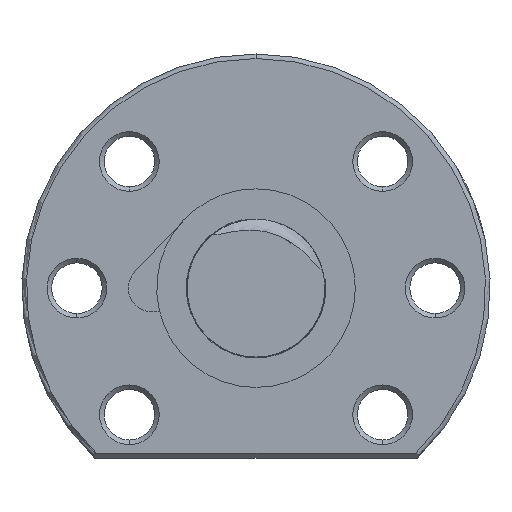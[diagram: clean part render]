
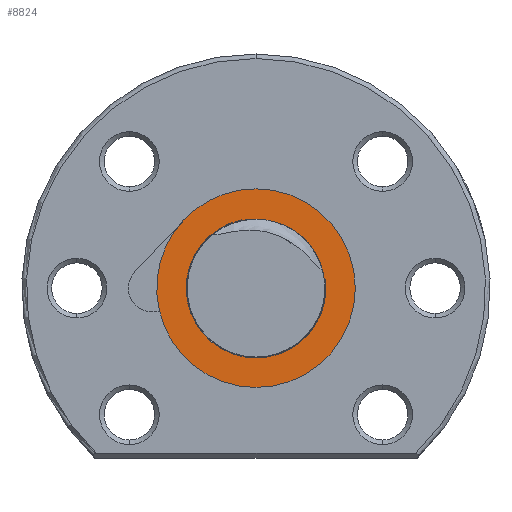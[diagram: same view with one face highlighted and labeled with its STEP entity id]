
A CAD part, left-side view. The second image highlights one B-rep face of the part: STEP entity #8824.
In plain terms, the highlighted planar face has unit normal (-1, 0, 0).
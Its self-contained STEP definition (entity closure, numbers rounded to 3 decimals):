
#2312 = DIRECTION ( 'NONE',  ( 0., 0., 1. ) ) ;
#2313 = DIRECTION ( 'NONE',  ( -1., 0., 0. ) ) ;
#2314 = CARTESIAN_POINT ( 'NONE',  ( -46.8, 0., 0. ) ) ;
#2315 = AXIS2_PLACEMENT_3D ( 'NONE', #2314, #2313, #2312 ) ;
#2335 = CIRCLE ( 'NONE', #2315, 7.6 ) ;
#2336 = CARTESIAN_POINT ( 'NONE',  ( -46.8, 0., -7.6 ) ) ;
#2345 = CARTESIAN_POINT ( 'NONE',  ( -46.8, -7.545, 0.914 ) ) ;
#2745 = DIRECTION ( 'NONE',  ( 0., 0., 1. ) ) ;
#2746 = DIRECTION ( 'NONE',  ( -1., 0., 0. ) ) ;
#2747 = CARTESIAN_POINT ( 'NONE',  ( -46.8, 0., 0. ) ) ;
#2748 = AXIS2_PLACEMENT_3D ( 'NONE', #2747, #2746, #2745 ) ;
#2749 = CIRCLE ( 'NONE', #2748, 10.813 ) ;
#2994 = CARTESIAN_POINT ( 'NONE',  ( -46.8, 10.528, -2.466 ) ) ;
#2995 = DIRECTION ( 'NONE',  ( 0., 0., 1. ) ) ;
#2996 = DIRECTION ( 'NONE',  ( -1., 0., 0. ) ) ;
#2997 = CARTESIAN_POINT ( 'NONE',  ( -46.8, 0., 0. ) ) ;
#2998 = AXIS2_PLACEMENT_3D ( 'NONE', #2997, #2996, #2995 ) ;
#3003 = CIRCLE ( 'NONE', #2998, 10.813 ) ;
#3128 = CARTESIAN_POINT ( 'NONE',  ( -46.8, 4.105, 6.396 ) ) ;
#3129 = CARTESIAN_POINT ( 'NONE',  ( -46.8, 4.04, 6.364 ) ) ;
#3130 = CARTESIAN_POINT ( 'NONE',  ( -46.8, 3.969, 6.344 ) ) ;
#3131 = CARTESIAN_POINT ( 'NONE',  ( -46.8, 3.825, 6.318 ) ) ;
#3132 = CARTESIAN_POINT ( 'NONE',  ( -46.8, 3.752, 6.311 ) ) ;
#3133 = CARTESIAN_POINT ( 'NONE',  ( -46.8, 3.535, 6.3 ) ) ;
#3134 = CARTESIAN_POINT ( 'NONE',  ( -46.8, 3.39, 6.304 ) ) ;
#3135 = CARTESIAN_POINT ( 'NONE',  ( -46.8, 2.958, 6.327 ) ) ;
#3136 = CARTESIAN_POINT ( 'NONE',  ( -46.8, 2.67, 6.355 ) ) ;
#3137 = CARTESIAN_POINT ( 'NONE',  ( -46.8, 1.806, 6.423 ) ) ;
#3138 = CARTESIAN_POINT ( 'NONE',  ( -46.8, 1.229, 6.448 ) ) ;
#3139 = CARTESIAN_POINT ( 'NONE',  ( -46.8, 0.367, 6.406 ) ) ;
#3140 = CARTESIAN_POINT ( 'NONE',  ( -46.8, 0.08, 6.38 ) ) ;
#3141 = CARTESIAN_POINT ( 'NONE',  ( -46.8, -0.491, 6.301 ) ) ;
#3142 = CARTESIAN_POINT ( 'NONE',  ( -46.8, -0.775, 6.247 ) ) ;
#3143 = CARTESIAN_POINT ( 'NONE',  ( -46.8, -1.607, 6.046 ) ) ;
#3144 = CARTESIAN_POINT ( 'NONE',  ( -46.8, -2.143, 5.859 ) ) ;
#3145 = CARTESIAN_POINT ( 'NONE',  ( -46.8, -3.173, 5.372 ) ) ;
#3146 = CARTESIAN_POINT ( 'NONE',  ( -46.8, -3.672, 5.068 ) ) ;
#3147 = CARTESIAN_POINT ( 'NONE',  ( -46.8, -4.58, 4.38 ) ) ;
#3148 = CARTESIAN_POINT ( 'NONE',  ( -46.8, -4.995, 3.994 ) ) ;
#3149 = CARTESIAN_POINT ( 'NONE',  ( -46.8, -5.76, 3.152 ) ) ;
#3150 = CARTESIAN_POINT ( 'NONE',  ( -46.8, -6.108, 2.692 ) ) ;
#3151 = CARTESIAN_POINT ( 'NONE',  ( -46.8, -6.604, 1.986 ) ) ;
#3152 = CARTESIAN_POINT ( 'NONE',  ( -46.8, -6.765, 1.748 ) ) ;
#3153 = CARTESIAN_POINT ( 'NONE',  ( -46.8, -7.023, 1.401 ) ) ;
#3154 = CARTESIAN_POINT ( 'NONE',  ( -46.8, -7.111, 1.287 ) ) ;
#3155 = CARTESIAN_POINT ( 'NONE',  ( -46.8, -7.258, 1.128 ) ) ;
#3156 = CARTESIAN_POINT ( 'NONE',  ( -46.8, -7.308, 1.078 ) ) ;
#3157 = CARTESIAN_POINT ( 'NONE',  ( -46.8, -7.419, 0.986 ) ) ;
#3158 = CARTESIAN_POINT ( 'NONE',  ( -46.8, -7.479, 0.943 ) ) ;
#3159 = CARTESIAN_POINT ( 'NONE',  ( -46.8, -7.545, 0.914 ) ) ;
#3160 = B_SPLINE_CURVE_WITH_KNOTS ( 'NONE', 3,
 ( #3159, #3158, #3157, #3156, #3155, #3154, #3153, #3152, #3151, #3150, #3149, #3148, #3147, #3146, #3145, #3144, #3143, #3142, #3141, #3140, #3139, #3138, #3137, #3136, #3135, #3134, #3133, #3132, #3131, #3130, #3129, #3128 ),
 .UNSPECIFIED., .F., .F.,
 ( 4, 2, 2, 2, 2, 2, 2, 2, 2, 2, 2, 2, 2, 2, 2, 4 ),
 ( 0.02, 0.02, 0.02, 0.021, 0.021, 0.023, 0.025, 0.027, 0.028, 0.029, 0.03, 0.032, 0.033, 0.033, 0.033, 0.034 ),
 .UNSPECIFIED. ) ;
#3163 = DIRECTION ( 'NONE',  ( 0., 0., 1. ) ) ;
#3164 = DIRECTION ( 'NONE',  ( -1., 0., 0. ) ) ;
#3165 = CARTESIAN_POINT ( 'NONE',  ( -46.8, 0., 7.6 ) ) ;
#3166 = AXIS2_PLACEMENT_3D ( 'NONE', #3165, #3164, #3163 ) ;
#3167 = PLANE ( 'NONE',  #3166 ) ;
#3168 = FACE_OUTER_BOUND ( 'NONE', #8792, .T. ) ;
#3169 = FACE_BOUND ( 'NONE', #8825, .T. ) ;
#3181 = DIRECTION ( 'NONE',  ( 0., 0., 1. ) ) ;
#3182 = DIRECTION ( 'NONE',  ( -1., 0., 0. ) ) ;
#3183 = AXIS2_PLACEMENT_3D ( 'NONE', #3215, #3182, #3181 ) ;
#3192 = CIRCLE ( 'NONE', #3183, 7.6 ) ;
#3215 = CARTESIAN_POINT ( 'NONE',  ( -46.8, 0., 0. ) ) ;
#3216 = CARTESIAN_POINT ( 'NONE',  ( -46.8, 4.105, 6.396 ) ) ;
#3710 = CARTESIAN_POINT ( 'NONE',  ( -46.8, 0., 10.813 ) ) ;
#3711 = CARTESIAN_POINT ( 'NONE',  ( -46.8, 0., -10.813 ) ) ;
#3712 = DIRECTION ( 'NONE',  ( 0., 0., 1. ) ) ;
#3713 = DIRECTION ( 'NONE',  ( -1., 0., 0. ) ) ;
#3714 = CARTESIAN_POINT ( 'NONE',  ( -46.8, 0., 0. ) ) ;
#3715 = AXIS2_PLACEMENT_3D ( 'NONE', #3714, #3713, #3712 ) ;
#3720 = CIRCLE ( 'NONE', #3715, 10.813 ) ;
#3740 = CARTESIAN_POINT ( 'NONE',  ( -46.8, 7.861, 7.423 ) ) ;
#3741 = DIRECTION ( 'NONE',  ( 0., 0., 1. ) ) ;
#3742 = DIRECTION ( 'NONE',  ( -1., 0., 0. ) ) ;
#3743 = CARTESIAN_POINT ( 'NONE',  ( -46.8, 0., 0. ) ) ;
#3744 = AXIS2_PLACEMENT_3D ( 'NONE', #3743, #3742, #3741 ) ;
#3745 = CIRCLE ( 'NONE', #3744, 10.813 ) ;
#8608 = VERTEX_POINT ( 'NONE', #2345 ) ;
#8611 = VERTEX_POINT ( 'NONE', #2336 ) ;
#8613 = EDGE_CURVE ( 'NONE', #8611, #8608, #2335, .T. ) ;
#8791 = ORIENTED_EDGE ( 'NONE', *, *, #8613, .F. ) ;
#8792 = EDGE_LOOP ( 'NONE', ( #8793, #8845, #8846, #8847 ) ) ;
#8793 = ORIENTED_EDGE ( 'NONE', *, *, #8794, .T. ) ;
#8794 = EDGE_CURVE ( 'NONE', #9045, #8888, #2749, .T. ) ;
#8815 = VERTEX_POINT ( 'NONE', #3216 ) ;
#8817 = EDGE_CURVE ( 'NONE', #8815, #8611, #3192, .T. ) ;
#8824 = ADVANCED_FACE ( 'NONE', ( #3169, #3168 ), #3167, .T. ) ;
#8825 = EDGE_LOOP ( 'NONE', ( #8826, #8827, #8791 ) ) ;
#8826 = ORIENTED_EDGE ( 'NONE', *, *, #8817, .F. ) ;
#8827 = ORIENTED_EDGE ( 'NONE', *, *, #8828, .F. ) ;
#8828 = EDGE_CURVE ( 'NONE', #8608, #8815, #3160, .T. ) ;
#8845 = ORIENTED_EDGE ( 'NONE', *, *, #8887, .T. ) ;
#8846 = ORIENTED_EDGE ( 'NONE', *, *, #9059, .T. ) ;
#8847 = ORIENTED_EDGE ( 'NONE', *, *, #9044, .T. ) ;
#8887 = EDGE_CURVE ( 'NONE', #8888, #9060, #3003, .T. ) ;
#8888 = VERTEX_POINT ( 'NONE', #2994 ) ;
#9044 = EDGE_CURVE ( 'NONE', #9061, #9045, #3745, .T. ) ;
#9045 = VERTEX_POINT ( 'NONE', #3740 ) ;
#9059 = EDGE_CURVE ( 'NONE', #9060, #9061, #3720, .T. ) ;
#9060 = VERTEX_POINT ( 'NONE', #3711 ) ;
#9061 = VERTEX_POINT ( 'NONE', #3710 ) ;
